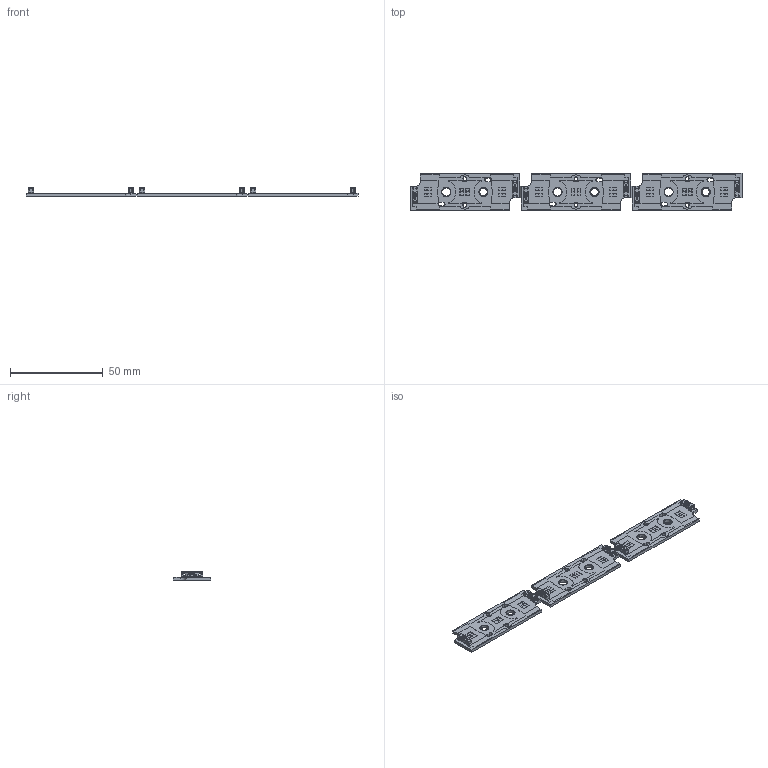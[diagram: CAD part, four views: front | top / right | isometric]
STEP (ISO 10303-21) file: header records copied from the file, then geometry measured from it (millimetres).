
FILE_DESCRIPTION(('CATIA V5 STEP Exchange','CAx-IF Rec.Pracs.--- Model Styling and Organization---1.4--- 2014-01-23'),'2;1');
FILE_NAME('D:\MECHMODELS\päivittäiset\202203\Daisy-mini-3x1\mechanical\DAISY-MINI-3X1_2_LED_REFERENCE-PCB_20220427_MechanicalModel.stp','2022-04-27T11:46:44+00:00',('none'),('none'),'CATIA Version 5-6 Release 2018 SP4','CATIA V5 STEP AP214','none');
FILE_SCHEMA(('AUTOMOTIVE_DESIGN { 1 0 10303 214 1 1 1 1 }'));
Products named in the file (1): DAISY-MINI-3X1_2_LED_REFERENCE-PCB_002
Bounding box: 179.2 x 20 x 4.7 mm (x, y, z)
Volume: 5225.9 mm3; surface area: 8560.9 mm2
Topology: 43 solids, 43 shells, 3167 faces, 8598 edges, 5544 vertices
Faces by surface type: plane 2021, cylinder 864, cone 132, torus 126, bspline 24
Entity records: 96538 total; most frequent: CARTESIAN_POINT 23164, ORIENTED_EDGE 17196, DIRECTION 11730, EDGE_CURVE 8598, VECTOR 6318, LINE 6318, VERTEX_POINT 5544, AXIS2_PLACEMENT_3D 3388
